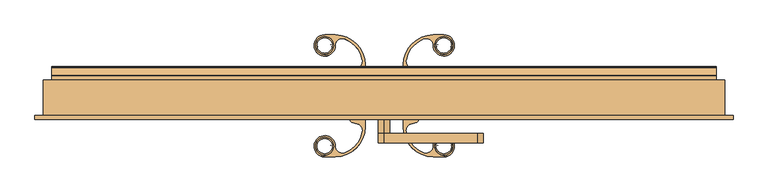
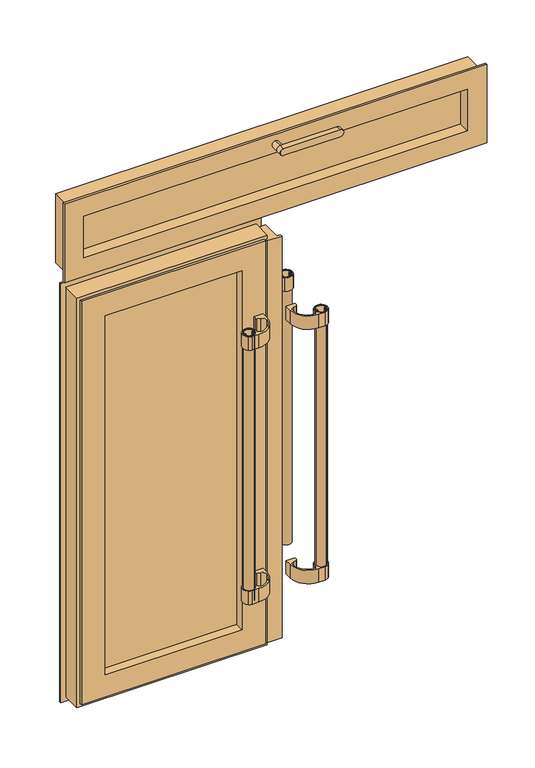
"""IFC4 building model written with IfcOpenShell, lengths in millimetres: door geometry, Dvokrilna vrata s ventusom_ : Dvokrilna vrata s ventusom_."""

from ifc_helpers import new_model, si_unit, point, frame, frame_2d, origin, place, context, project, spatial, polyline, circle_curve, trimmed, segment, composite_curve, outline, extrude, faceted_brep, source, transform, mapped, element, save
from ifc_brep_helpers import plane_surface, cylinder_surface, revolved_surface, advanced_brep


def door_0c907331(model_context):
    return source(origin(), model_context, "Body", "SolidModel", [
        advanced_brep(
        [(0.0, -83.0012446, 1897.9939147), (200.0, -83.0012446, 1897.9939147), (200.0, -83.0012446, 1922.9939147), (0.0, -83.0012446, 1922.9939147), (0.0, -63.0012446, 1922.9939147), (200.0, -63.0012446, 1922.9939147), (200.0, -63.0012446, 1897.9939147), (0.0, -63.0012446, 1897.9939147), (0.0, -33.0012446, 1897.9939147), (0.0, -33.0012446, 1922.9939147)],
        [
            (0, 1),
            (1, 2, circle_curve(frame((200.0, -83.0012446, 1910.4939147), z_axis=(0.0, -1.0, 0.0), x_axis=(0.0, 0.0, 1.0)), 12.5)),
            (2, 3),
            (3, 0, circle_curve(frame((0.0, -83.0012446, 1910.4939147), z_axis=(0.0, -1.0, 0.0), x_axis=(0.0, 0.0, 1.0)), 12.5)),
            (4, 5),
            (5, 6, circle_curve(frame((200.0, -63.0012446, 1910.4939147), z_axis=(0.0, 1.0, 0.0), x_axis=(0.0, 0.0, 1.0)), 12.5)),
            (6, 7),
            (7, 4, circle_curve(frame((0.0, -63.0012446, 1910.4939147), z_axis=(0.0, -1.0, 0.0), x_axis=(0.0, 0.0, 1.0)), 12.5)),
            (0, 7),
            (6, 1),
            (5, 2),
            (4, 3),
            (4, 7, circle_curve(frame((0.0, -63.0012446, 1910.4939147), z_axis=(0.0, -1.0, 0.0), x_axis=(0.0, 0.0, 1.0)), 12.5)),
            (8, 9, circle_curve(frame((0.0, -33.0012446, 1910.4939147), z_axis=(0.0, 1.0, 0.0), x_axis=(0.0, 0.0, 1.0)), 12.5)),
            (9, 8, circle_curve(frame((0.0, -33.0012446, 1910.4939147), z_axis=(0.0, 1.0, 0.0), x_axis=(0.0, 0.0, 1.0)), 12.5)),
            (9, 4),
            (7, 8),
        ],
        [
            plane_surface(frame((0.0, -83.0012446, 1897.9939147), z_axis=(0.0, -1.0, 0.0), x_axis=(1.0, 0.0, 0.0))),
            plane_surface(frame((0.0, -63.0012446, 1897.9939147), z_axis=(0.0, 1.0, 0.0), x_axis=(-1.0, 0.0, 0.0))),
            plane_surface(frame((0.0, -83.0012446, 1897.9939147), z_axis=(0.0, 0.0, -1.0), x_axis=(0.0, 1.0, 0.0))),
            cylinder_surface(frame((200.0, -63.0012446, 1910.4939147), z_axis=(0.0, -1.0, 0.0), x_axis=(0.0, 0.0, 1.0)), 12.5),
            plane_surface(frame((200.0, -83.0012446, 1922.9939147), z_axis=(0.0, 0.0, 1.0), x_axis=(0.0, 1.0, 0.0))),
            cylinder_surface(frame((0.0, -63.0012446, 1910.4939147), z_axis=(0.0, -1.0, 0.0), x_axis=(0.0, 0.0, 1.0)), 12.5),
            plane_surface(frame((0.0, -33.0012446, 1922.9939147), z_axis=(0.0, 1.0, 0.0), x_axis=(1.0, 0.0, 0.0))),
            cylinder_surface(frame((0.0, -33.0012446, 1910.4939147), z_axis=(0.0, -1.0, 0.0), x_axis=(0.0, 0.0, 1.0)), 12.5),
        ],
        [
            (0, [[1, 2, 3, 4]]),
            (1, [[5, 6, 7, 8]]),
            (2, [[-1, 9, -7, 10]]),
            (3, [[-2, -10, -6, 11]]),
            (4, [[-3, -11, -5, 12]]),
            (5, [[-4, -12, 13, -9]]),
            (6, [[14, 15]]),
            (7, [[-15, 16, -8, 17]]),
            (7, [[-14, -17, -13, -16]]),
        ],
    ),
        advanced_brep(
        [(728.9999515, 51.5023127, 1928.9999515), (728.9999515, -25.0011367, 1928.9999515), (728.9999515, -25.0011367, 1671.5000485), (728.9999515, 51.5023127, 1671.5000485), (746.499939, -25.0011367, 1946.499939), (746.499939, -25.0011367, 1654.000061), (-746.499939, -25.0011367, 1654.000061), (-746.499939, -25.0011367, 1946.499939), (-728.9999515, -25.0011367, 1928.9999515), (-728.9999515, -25.0011367, 1671.5000485), (-728.9999515, 51.5023127, 1671.5000485), (-728.9999515, 51.5023127, 1928.9999515), (710.4939147, 51.5023127, 1690.0060853), (710.4939147, 51.5023127, 1910.4939147), (-710.4939147, 51.5023127, 1910.4939147), (-710.4939147, 51.5023127, 1690.0060853), (710.4939147, 60.0023127, 1910.4939147), (710.4939147, 60.0023127, 1690.0060853), (710.4939147, 61.4127073, 1690.0111266), (710.4939147, 61.4023067, 1692.9208963), (710.4939147, 65.4023191, 1699.8492482), (710.4939147, 77.402313, 1692.9209945), (710.4939147, 78.5492699, 1690.0060853), (710.4939147, 79.9799747, 1690.0060853), (710.4939147, 78.0022827, 1694.1911593), (710.4939147, 61.0023437, 1704.0061013), (710.4939147, 60.0023127, 1704.0061013), (-710.4939147, 60.0023127, 1690.0060853), (-710.4939147, 61.4127073, 1690.0111266), (-710.4939147, 61.4023067, 1692.9208963), (-710.4939147, 65.4023191, 1699.8492482), (-710.4939147, 77.402313, 1692.9209945), (-710.4939147, 78.5492699, 1690.0060853), (-710.4939147, 79.9799747, 1690.0060853), (-710.4939147, 78.0022827, 1694.1911593), (-710.4939147, 61.0023437, 1704.0061013), (-710.4939147, 60.0023127, 1704.0061013), (-710.4939147, 60.0023127, 1910.4939147), (678.0736554, 60.0023127, 1722.4263446), (678.0736554, 60.0023127, 1878.0736554), (-678.0736554, 60.0023127, 1878.0736554), (-678.0736554, 60.0023127, 1722.4263446), (678.0736554, 52.505602, 1878.0736554), (678.0736554, 52.505602, 1722.4263446), (-678.0736554, 52.505602, 1722.4263446), (690.0778178, 52.505602, 1710.4221822), (690.0778178, 52.505602, 1890.0778178), (-690.0778178, 52.505602, 1890.0778178), (-690.0778178, 52.505602, 1710.4221822), (-678.0736554, 52.505602, 1878.0736554), (690.0778178, 8.505602, 1890.0778178), (690.0778178, 8.505602, 1710.4221822), (-690.0778178, 8.505602, 1710.4221822), (-690.0778178, 8.505602, 1890.0778178), (677.9998235, 8.505602, 1722.5001765), (677.9998235, 8.505602, 1877.9998235), (-677.9998235, 8.505602, 1877.9998235), (-677.9998235, 8.505602, 1722.5001765), (677.9998235, -33.0012446, 1877.9998235), (677.9998235, -33.0012446, 1722.5001765), (-677.9998235, -33.0012446, 1722.5001765), (746.499939, -33.0012446, 1654.000061), (746.499939, -33.0012446, 1946.499939), (-746.499939, -33.0012446, 1946.499939), (-746.499939, -33.0012446, 1654.000061), (-677.9998235, -33.0012446, 1877.9998235)],
        [
            (0, 1),
            (1, 2),
            (2, 3),
            (3, 0),
            (4, 5),
            (5, 6),
            (6, 7),
            (7, 4),
            (1, 8),
            (8, 9),
            (9, 2),
            (9, 10),
            (10, 3),
            (10, 11),
            (11, 0),
            (12, 13),
            (13, 14),
            (14, 15),
            (15, 12),
            (16, 13),
            (12, 17),
            (17, 18),
            (18, 19),
            (19, 20),
            (20, 21),
            (21, 22, circle_curve(frame((710.4939147, 75.4152773, 1690.4560302), z_axis=(-1.0, 0.0, 0.0), x_axis=(0.0, 0.6275919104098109, 0.7785424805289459)), 3.1661269)),
            (22, 23),
            (23, 24, circle_curve(frame((710.4939147, 75.7102315, 1690.5482067), z_axis=(1.0, 0.0, 0.0), x_axis=(0.0, 0.9920357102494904, -0.12595693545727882)), 4.3040217)),
            (24, 25),
            (25, 26),
            (26, 16),
            (15, 27),
            (27, 17),
            (27, 28),
            (28, 18),
            (28, 29),
            (29, 19),
            (29, 30),
            (30, 20),
            (30, 31),
            (31, 21),
            (31, 32, circle_curve(frame((-710.4939147, 75.4152773, 1690.4560302), z_axis=(-1.0, 0.0, 0.0), x_axis=(0.0, 0.6275919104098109, 0.7785424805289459)), 3.1661269)),
            (32, 22),
            (32, 33),
            (33, 23),
            (33, 34, circle_curve(frame((-710.4939147, 75.7102315, 1690.5482067), z_axis=(1.0, 0.0, 0.0), x_axis=(0.0, 0.9920357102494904, -0.12595693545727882)), 4.3040217)),
            (34, 24),
            (34, 35),
            (35, 25),
            (35, 36),
            (36, 26),
            (37, 16),
            (36, 37),
            (38, 39),
            (39, 40),
            (40, 41),
            (41, 38),
            (42, 39),
            (38, 43),
            (43, 42),
            (41, 44),
            (44, 43),
            (45, 46),
            (46, 47),
            (47, 48),
            (48, 45),
            (44, 49),
            (49, 42),
            (50, 46),
            (45, 51),
            (51, 50),
            (48, 52),
            (52, 51),
            (52, 53),
            (53, 50),
            (54, 55),
            (55, 56),
            (56, 57),
            (57, 54),
            (58, 55),
            (54, 59),
            (59, 58),
            (57, 60),
            (60, 59),
            (61, 62),
            (62, 63),
            (63, 64),
            (64, 61),
            (60, 65),
            (65, 58),
            (61, 5),
            (4, 62),
            (64, 6),
            (8, 11),
            (14, 37),
            (40, 49),
            (47, 53),
            (56, 65),
            (63, 7),
        ],
        [
            plane_surface(frame((728.9999515, -25.0011367, 1928.9999515), z_axis=(1.0, 0.0, 0.0), x_axis=(0.0, 0.0, -1.0))),
            plane_surface(frame((-746.499939, -25.0011367, 1946.499939), z_axis=(0.0, 1.0, 0.0), x_axis=(1.0, 0.0, 0.0))),
            plane_surface(frame((728.9999515, -25.0011367, 1671.5000485), z_axis=(0.0, 0.0, -1.0), x_axis=(-1.0, 0.0, 0.0))),
            plane_surface(frame((-728.9999515, 51.5023127, 1928.9999515), z_axis=(0.0, 1.0, 0.0), x_axis=(1.0, 0.0, 0.0))),
            plane_surface(frame((710.4939147, 51.5023127, 1910.4939147), z_axis=(1.0, 0.0, 0.0), x_axis=(0.0, 0.0, -1.0))),
            plane_surface(frame((710.4939147, 51.5023127, 1690.0060853), z_axis=(0.0, 0.0, -1.0), x_axis=(-1.0, 0.0, 0.0))),
            plane_surface(frame((-710.4939147, 61.4127073, 1690.0111266), z_axis=(0.0, 0.003574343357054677, -0.9999936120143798), x_axis=(1.0, 0.0, 0.0))),
            plane_surface(frame((-710.4939147, 61.4023067, 1692.9208963), z_axis=(0.0, 0.9999936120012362, 0.0035743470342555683), x_axis=(1.0, 0.0, 0.0))),
            plane_surface(frame((-710.4939147, 65.4023191, 1699.8492482), z_axis=(0.0, 0.8660293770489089, -0.49999311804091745), x_axis=(1.0, 0.0, 0.0))),
            plane_surface(frame((-710.4939147, 77.402313, 1692.9209945), z_axis=(0.0, -0.5000029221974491, -0.8660237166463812), x_axis=(1.0, 0.0, 0.0))),
            revolved_surface(polyline([(710.4939147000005, 77.40231292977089, 1692.9209944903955), (-710.4939147, 77.40231292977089, 1692.9209944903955)]), (-710.4939147, 75.4152773, 1690.4560302), (1.0000000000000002, 0.0, 0.0)),
            plane_surface(frame((-710.4939147, 79.9799747, 1690.0060853), z_axis=(0.0, 0.0, -1.0), x_axis=(1.0, 0.0, 0.0))),
            cylinder_surface(frame((-710.4939147, 75.7102315, 1690.5482067), z_axis=(-1.0, 0.0, 0.0), x_axis=(0.0, 0.9920357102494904, -0.12595693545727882)), 4.3040217),
            plane_surface(frame((-710.4939147, 61.0023437, 1704.0061013), z_axis=(0.0, 0.5000008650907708, 0.8660249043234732), x_axis=(1.0, 0.0, 0.0))),
            plane_surface(frame((-710.4939147, 60.0023127, 1704.0061013), z_axis=(0.0, 0.0, 1.0), x_axis=(1.0, 0.0, 0.0))),
            plane_surface(frame((-710.4939147, 60.0023127, 1910.4939147), z_axis=(0.0, 1.0, 0.0), x_axis=(1.0, 0.0, 0.0))),
            plane_surface(frame((678.0736554, 60.0023127, 1878.0736554), z_axis=(-1.0, 0.0, 0.0), x_axis=(0.0, 0.0, -1.0))),
            plane_surface(frame((678.0736554, 60.0023127, 1722.4263446), z_axis=(0.0, 0.0, 1.0), x_axis=(-1.0, 0.0, 0.0))),
            plane_surface(frame((-678.0736554, 52.505602, 1878.0736554), z_axis=(0.0, -1.0, 0.0), x_axis=(1.0, 0.0, 0.0))),
            plane_surface(frame((690.0778178, 52.505602, 1890.0778178), z_axis=(-1.0, 0.0, 0.0), x_axis=(0.0, 0.0, -1.0))),
            plane_surface(frame((690.0778178, 52.505602, 1710.4221822), z_axis=(0.0, 0.0, 1.0), x_axis=(-1.0, 0.0, 0.0))),
            plane_surface(frame((-690.0778178, 8.505602, 1890.0778178), z_axis=(0.0, 1.0, 0.0), x_axis=(1.0, 0.0, 0.0))),
            plane_surface(frame((677.9998235, 8.505602, 1877.9998235), z_axis=(-1.0, 0.0, 0.0), x_axis=(0.0, 0.0, -1.0))),
            plane_surface(frame((677.9998235, 8.505602, 1722.5001765), z_axis=(0.0, 0.0, 1.0), x_axis=(-1.0, 0.0, 0.0))),
            plane_surface(frame((-677.9998235, -33.0012446, 1877.9998235), z_axis=(0.0, -1.0, 0.0), x_axis=(1.0, 0.0, 0.0))),
            plane_surface(frame((746.499939, -30.2011769, 1946.499939), z_axis=(1.0, 0.0, 0.0), x_axis=(0.0, 0.0, -1.0))),
            plane_surface(frame((746.499939, -30.2011769, 1654.000061), z_axis=(0.0, 0.0, -1.0), x_axis=(-1.0, 0.0, 0.0))),
            plane_surface(frame((-728.9999515, -25.0011367, 1671.5000485), z_axis=(-1.0, 0.0, 0.0), x_axis=(0.0, 0.0, 1.0))),
            plane_surface(frame((-710.4939147, 51.5023127, 1690.0060853), z_axis=(-1.0, 0.0, 0.0), x_axis=(0.0, 0.0, 1.0))),
            plane_surface(frame((-678.0736554, 60.0023127, 1722.4263446), z_axis=(1.0, 0.0, 0.0), x_axis=(0.0, 0.0, 1.0))),
            plane_surface(frame((-690.0778178, 52.505602, 1710.4221822), z_axis=(1.0, 0.0, 0.0), x_axis=(0.0, 0.0, 1.0))),
            plane_surface(frame((-677.9998235, 8.505602, 1722.5001765), z_axis=(1.0, 0.0, 0.0), x_axis=(0.0, 0.0, 1.0))),
            plane_surface(frame((-746.499939, -30.2011769, 1654.000061), z_axis=(-1.0, 0.0, 0.0), x_axis=(0.0, 0.0, 1.0))),
            plane_surface(frame((-728.9999515, -25.0011367, 1928.9999515), z_axis=(0.0, 0.0, 1.0), x_axis=(1.0, 0.0, 0.0))),
            plane_surface(frame((-710.4939147, 51.5023127, 1910.4939147), z_axis=(0.0, 0.0, 1.0), x_axis=(1.0, 0.0, 0.0))),
            plane_surface(frame((-678.0736554, 60.0023127, 1878.0736554), z_axis=(0.0, 0.0, -1.0), x_axis=(1.0, 0.0, 0.0))),
            plane_surface(frame((-690.0778178, 52.505602, 1890.0778178), z_axis=(0.0, 0.0, -1.0), x_axis=(1.0, 0.0, 0.0))),
            plane_surface(frame((-677.9998235, 8.505602, 1877.9998235), z_axis=(0.0, 0.0, -1.0), x_axis=(1.0, 0.0, 0.0))),
            plane_surface(frame((-746.499939, -30.2011769, 1946.499939), z_axis=(0.0, 0.0, 1.0), x_axis=(1.0, 0.0, 0.0))),
        ],
        [
            (0, [[1, 2, 3, 4]]),
            (1, [[5, 6, 7, 8], [-2, 9, 10, 11]]),
            (2, [[-3, -11, 12, 13]]),
            (3, [[-4, -13, 14, 15], [16, 17, 18, 19]]),
            (4, [[20, -16, 21, 22, 23, 24, 25, 26, 27, 28, 29, 30, 31]]),
            (5, [[-21, -19, 32, 33]]),
            (6, [[34, 35, -22, -33]]),
            (7, [[36, 37, -23, -35]]),
            (8, [[38, 39, -24, -37]]),
            (9, [[40, 41, -25, -39]]),
            (10, [[42, 43, -26, -41]]),
            (11, [[44, 45, -27, -43]]),
            (12, [[46, 47, -28, -45]]),
            (13, [[48, 49, -29, -47]]),
            (14, [[50, 51, -30, -49]]),
            (15, [[52, -31, -51, 53], [54, 55, 56, 57]]),
            (16, [[58, -54, 59, 60]]),
            (17, [[-59, -57, 61, 62]]),
            (18, [[63, 64, 65, 66], [-60, -62, 67, 68]]),
            (19, [[69, -63, 70, 71]]),
            (20, [[-70, -66, 72, 73]]),
            (21, [[-71, -73, 74, 75], [76, 77, 78, 79]]),
            (22, [[80, -76, 81, 82]]),
            (23, [[-81, -79, 83, 84]]),
            (24, [[85, 86, 87, 88], [-82, -84, 89, 90]]),
            (25, [[-85, 91, -5, 92]]),
            (26, [[-91, -88, 93, -6]]),
            (27, [[-12, -10, 94, -14]]),
            (28, [[-32, -18, 95, -53, -50, -48, -46, -44, -42, -40, -38, -36, -34]]),
            (29, [[-61, -56, 96, -67]]),
            (30, [[-72, -65, 97, -74]]),
            (31, [[-83, -78, 98, -89]]),
            (32, [[-93, -87, 99, -7]]),
            (33, [[-1, -15, -94, -9]]),
            (34, [[-20, -52, -95, -17]]),
            (35, [[-58, -68, -96, -55]]),
            (36, [[-69, -75, -97, -64]]),
            (37, [[-80, -90, -98, -77]]),
            (38, [[-92, -8, -99, -86]]),
        ],
    ),
        extrude(outline(polyline([(690.0778178, 8.505602), (-690.0778178, 8.505602), (-690.0778178, 51.5023127), (690.0778178, 51.5023127), (690.0778178, 8.505602)])), frame((0.0, 0.0, 1710.4221822), z_axis=(0.0, 0.0, 1.0), x_axis=(1.0, 0.0, 0.0)), (0.0, 0.0, 1.0), 179.6556356),
        extrude(outline(composite_curve([segment(trimmed(circle_curve(frame_2d((-126.8433953, -90.4480127)), 19.0), [point((-107.8433953, -90.4480127))], [point((-145.8433953, -90.4480127))], False, "CARTESIAN"), True, "CONTINUOUS"), segment(trimmed(circle_curve(frame_2d((-126.8433953, -90.4480127)), 19.0), [point((-145.8433953, -90.4480127))], [point((-107.8433953, -90.4480127))], False, "CARTESIAN"), True, "CONTINUOUS")], self_intersect=False), holes=[composite_curve([segment(trimmed(circle_curve(frame_2d((-112.3833953, -90.4480127)), 1.55), [point((-113.4794108, -91.5440282))], [point((-113.4794108, -89.3519971))], True, "CARTESIAN"), True, "CONTINUOUS"), segment(polyline([(-113.4794108, -89.3519971), (-114.626012, -89.3519971), (-114.626012, -88.3808479)]), True, "CONTINUOUS"), segment(trimmed(circle_curve(frame_2d((-112.3833953, -90.4480127)), 3.05), [point((-114.626012, -88.3808479))], [point((-112.3833953, -87.3980127))], False, "CARTESIAN"), True, "CONTINUOUS"), segment(polyline([(-112.3833953, -87.3980127), (-111.1367884, -87.3980127)]), True, "CONTINUOUS"), segment(trimmed(circle_curve(frame_2d((-126.8433953, -90.4480127)), 16.0), [point((-111.1367884, -87.3980127))], [point((-142.5500021, -87.3980127))], True, "CARTESIAN"), True, "CONTINUOUS"), segment(polyline([(-142.5500021, -87.3980127), (-141.3433953, -87.3980127)]), True, "CONTINUOUS"), segment(trimmed(circle_curve(frame_2d((-141.3433953, -90.4480127)), 3.05), [point((-141.3433953, -87.3980127))], [point((-139.1007785, -88.3808479))], False, "CARTESIAN"), True, "CONTINUOUS"), segment(polyline([(-139.1007785, -88.3808479), (-139.1007785, -89.3519971), (-140.2473797, -89.3519971)]), True, "CONTINUOUS"), segment(trimmed(circle_curve(frame_2d((-141.3433953, -90.4480127)), 1.55), [point((-140.2473797, -89.3519971))], [point((-140.2473797, -91.5440282))], True, "CARTESIAN"), True, "CONTINUOUS"), segment(polyline([(-140.2473797, -91.5440282), (-139.1007785, -91.5440282), (-139.1007785, -92.5151774)]), True, "CONTINUOUS"), segment(trimmed(circle_curve(frame_2d((-141.3433953, -90.4480127)), 3.05), [point((-139.1007785, -92.5151774))], [point((-141.3433953, -93.4980127))], False, "CARTESIAN"), True, "CONTINUOUS"), segment(polyline([(-141.3433953, -93.4980127), (-142.5500021, -93.4980127)]), True, "CONTINUOUS"), segment(trimmed(circle_curve(frame_2d((-126.8433953, -90.4480127)), 16.0), [point((-142.5500021, -93.4980127))], [point((-111.1367884, -93.4980127))], True, "CARTESIAN"), True, "CONTINUOUS"), segment(polyline([(-111.1367884, -93.4980127), (-112.3833953, -93.4980127)]), True, "CONTINUOUS"), segment(trimmed(circle_curve(frame_2d((-112.3833953, -90.4480127)), 3.05), [point((-112.3833953, -93.4980127))], [point((-114.626012, -92.5151774))], False, "CARTESIAN"), True, "CONTINUOUS"), segment(polyline([(-114.626012, -92.5151774), (-114.626012, -91.5440282), (-113.4794108, -91.5440282)]), True, "CONTINUOUS")], self_intersect=False)]), frame((0.0, 0.0, 285.3), z_axis=(0.0, 0.0, 1.0), x_axis=(1.0, 0.0, 0.0)), (0.0, 0.0, 1.0), 1000.0),
        extrude(outline(composite_curve([segment(polyline([(-45.2965181, -25.0002504), (-40.2965181, -25.0002504), (-40.2965181, -49.1980127)]), True, "CONTINUOUS"), segment(trimmed(circle_curve(frame_2d((-104.2937591, -49.1980127)), 63.997241), [point((-40.2965181, -49.1980127))], [point((-104.2937591, -113.1952536))], False, "CARTESIAN"), True, "CONTINUOUS"), segment(polyline([(-104.2937591, -113.1952536), (-127.197696, -113.1952536)]), True, "CONTINUOUS"), segment(trimmed(circle_curve(frame_2d((-126.7792508, -90.255705)), 22.9433648), [point((-127.197696, -113.1952536))], [point((-140.2155097, -108.8531493))], False, "CARTESIAN"), True, "CONTINUOUS"), segment(trimmed(circle_curve(frame_2d((-126.9211325, -90.4520867)), 22.7010919), [point((-140.2155097, -108.8531493))], [point((-142.0661166, -73.5414679))], False, "CARTESIAN"), True, "CONTINUOUS"), segment(trimmed(circle_curve(frame_2d((-126.8383367, -90.5445349)), 22.8251959), [point((-142.0661166, -73.5414679))], [point((-113.4712808, -72.042876))], False, "CARTESIAN"), True, "CONTINUOUS"), segment(trimmed(circle_curve(frame_2d((-126.7250279, -90.3877015)), 22.631713), [point((-113.4712808, -72.042876))], [point((-104.0933953, -90.4480127))], False, "CARTESIAN"), True, "CONTINUOUS"), segment(trimmed(circle_curve(frame_2d((-89.0934036, -90.4879862)), 15.0000449), [point((-104.0933953, -90.4480127))], [point((-83.9255414, -104.5696959))], True, "CARTESIAN"), True, "CONTINUOUS"), segment(trimmed(circle_curve(frame_2d((-104.2241808, -49.2587109)), 58.9180773), [point((-83.9255414, -104.5696959))], [point((-46.2286722, -59.6443165))], True, "CARTESIAN"), True, "CONTINUOUS"), segment(trimmed(circle_curve(frame_2d((-60.9435394, -56.7139289)), 15.0038159), [point((-46.2286722, -59.6443165))], [point((-57.0602662, -42.2213556))], True, "CARTESIAN"), True, "CONTINUOUS"), segment(polyline([(-57.0602662, -42.2213556), (-68.5906134, -39.1318084)]), True, "CONTINUOUS"), segment(trimmed(circle_curve(frame_2d((-67.2965181, -34.3021793)), 5.0), [point((-68.5906134, -39.1318084))], [point((-72.2965181, -34.3021793))], False, "CARTESIAN"), True, "CONTINUOUS"), segment(polyline([(-72.2965181, -34.3021793), (-72.2965181, -25.0002504), (-45.2965181, -25.0002504)]), True, "CONTINUOUS")], self_intersect=False), holes=[composite_curve([segment(trimmed(circle_curve(frame_2d((-126.8433953, -90.4480127)), 19.25), [point((-107.5933953, -90.4480127))], [point((-146.0933953, -90.4480127))], True, "CARTESIAN"), True, "CONTINUOUS"), segment(trimmed(circle_curve(frame_2d((-126.8433953, -90.4480127)), 19.25), [point((-146.0933953, -90.4480127))], [point((-107.5933953, -90.4480127))], True, "CARTESIAN"), True, "CONTINUOUS")], self_intersect=False)]), frame((0.0, 0.0, 1235.3), z_axis=(0.0, 0.0, 1.0), x_axis=(1.0, 0.0, 0.0)), (0.0, 0.0, 1.0), 50.0),
        extrude(outline(composite_curve([segment(polyline([(-45.2965181, -25.0002504), (-40.2965181, -25.0002504), (-40.2965181, -49.1980127)]), True, "CONTINUOUS"), segment(trimmed(circle_curve(frame_2d((-104.2937591, -49.1980127)), 63.997241), [point((-40.2965181, -49.1980127))], [point((-104.2937591, -113.1952536))], False, "CARTESIAN"), True, "CONTINUOUS"), segment(polyline([(-104.2937591, -113.1952536), (-127.197696, -113.1952536)]), True, "CONTINUOUS"), segment(trimmed(circle_curve(frame_2d((-126.7792508, -90.255705)), 22.9433648), [point((-127.197696, -113.1952536))], [point((-140.2155097, -108.8531493))], False, "CARTESIAN"), True, "CONTINUOUS"), segment(trimmed(circle_curve(frame_2d((-126.9211325, -90.4520867)), 22.7010919), [point((-140.2155097, -108.8531493))], [point((-142.0661166, -73.5414679))], False, "CARTESIAN"), True, "CONTINUOUS"), segment(trimmed(circle_curve(frame_2d((-126.8383367, -90.5445349)), 22.8251959), [point((-142.0661166, -73.5414679))], [point((-113.4712808, -72.042876))], False, "CARTESIAN"), True, "CONTINUOUS"), segment(trimmed(circle_curve(frame_2d((-126.7250279, -90.3877015)), 22.631713), [point((-113.4712808, -72.042876))], [point((-104.0933953, -90.4480127))], False, "CARTESIAN"), True, "CONTINUOUS"), segment(trimmed(circle_curve(frame_2d((-89.0934036, -90.4879862)), 15.0000449), [point((-104.0933953, -90.4480127))], [point((-83.9255414, -104.5696959))], True, "CARTESIAN"), True, "CONTINUOUS"), segment(trimmed(circle_curve(frame_2d((-104.2241808, -49.2587109)), 58.9180773), [point((-83.9255414, -104.5696959))], [point((-46.2286722, -59.6443165))], True, "CARTESIAN"), True, "CONTINUOUS"), segment(trimmed(circle_curve(frame_2d((-60.9435394, -56.7139289)), 15.0038159), [point((-46.2286722, -59.6443165))], [point((-57.0602662, -42.2213556))], True, "CARTESIAN"), True, "CONTINUOUS"), segment(polyline([(-57.0602662, -42.2213556), (-68.5906134, -39.1318084)]), True, "CONTINUOUS"), segment(trimmed(circle_curve(frame_2d((-67.2965181, -34.3021793)), 5.0), [point((-68.5906134, -39.1318084))], [point((-72.2965181, -34.3021793))], False, "CARTESIAN"), True, "CONTINUOUS"), segment(polyline([(-72.2965181, -34.3021793), (-72.2965181, -25.0002504), (-45.2965181, -25.0002504)]), True, "CONTINUOUS")], self_intersect=False), holes=[composite_curve([segment(trimmed(circle_curve(frame_2d((-126.8433953, -90.4480127)), 19.25), [point((-107.5933953, -90.4480127))], [point((-146.0933953, -90.4480127))], True, "CARTESIAN"), True, "CONTINUOUS"), segment(trimmed(circle_curve(frame_2d((-126.8433953, -90.4480127)), 19.25), [point((-146.0933953, -90.4480127))], [point((-107.5933953, -90.4480127))], True, "CARTESIAN"), True, "CONTINUOUS")], self_intersect=False)]), frame((0.0, 0.0, 285.3), z_axis=(0.0, 0.0, 1.0), x_axis=(1.0, 0.0, 0.0)), (0.0, 0.0, 1.0), 50.0),
        extrude(outline(composite_curve([segment(trimmed(circle_curve(frame_2d((-126.8433953, 125.4500749)), 19.0), [point((-107.8433953, 125.4500749))], [point((-145.8433953, 125.4500749))], False, "CARTESIAN"), True, "CONTINUOUS"), segment(trimmed(circle_curve(frame_2d((-126.8433953, 125.4500749)), 19.0), [point((-145.8433953, 125.4500749))], [point((-107.8433953, 125.4500749))], False, "CARTESIAN"), True, "CONTINUOUS")], self_intersect=False), holes=[composite_curve([segment(polyline([(-113.4794108, 126.5460904), (-114.626012, 126.5460904), (-114.626012, 127.5172397)]), True, "CONTINUOUS"), segment(trimmed(circle_curve(frame_2d((-112.3833953, 125.4500749)), 3.05), [point((-114.626012, 127.5172397))], [point((-112.3833953, 128.5000749))], False, "CARTESIAN"), True, "CONTINUOUS"), segment(polyline([(-112.3833953, 128.5000749), (-111.1367884, 128.5000749)]), True, "CONTINUOUS"), segment(trimmed(circle_curve(frame_2d((-126.8433953, 125.4500749)), 16.0), [point((-111.1367884, 128.5000749))], [point((-142.5500021, 128.5000749))], True, "CARTESIAN"), True, "CONTINUOUS"), segment(polyline([(-142.5500021, 128.5000749), (-141.3433953, 128.5000749)]), True, "CONTINUOUS"), segment(trimmed(circle_curve(frame_2d((-141.3433953, 125.4500749)), 3.05), [point((-141.3433953, 128.5000749))], [point((-139.1007785, 127.5172397))], False, "CARTESIAN"), True, "CONTINUOUS"), segment(polyline([(-139.1007785, 127.5172397), (-139.1007785, 126.5460904), (-140.2473797, 126.5460904)]), True, "CONTINUOUS"), segment(trimmed(circle_curve(frame_2d((-141.3433953, 125.4500749)), 1.55), [point((-140.2473797, 126.5460904))], [point((-140.2473797, 124.3540594))], True, "CARTESIAN"), True, "CONTINUOUS"), segment(polyline([(-140.2473797, 124.3540594), (-139.1007785, 124.3540594), (-139.1007785, 123.3829102)]), True, "CONTINUOUS"), segment(trimmed(circle_curve(frame_2d((-141.3433953, 125.4500749)), 3.05), [point((-139.1007785, 123.3829102))], [point((-141.3433953, 122.4000749))], False, "CARTESIAN"), True, "CONTINUOUS"), segment(polyline([(-141.3433953, 122.4000749), (-142.5500021, 122.4000749)]), True, "CONTINUOUS"), segment(trimmed(circle_curve(frame_2d((-126.8433953, 125.4500749)), 16.0), [point((-142.5500021, 122.4000749))], [point((-111.1367884, 122.4000749))], True, "CARTESIAN"), True, "CONTINUOUS"), segment(polyline([(-111.1367884, 122.4000749), (-112.3833953, 122.4000749)]), True, "CONTINUOUS"), segment(trimmed(circle_curve(frame_2d((-112.3833953, 125.4500749)), 3.05), [point((-112.3833953, 122.4000749))], [point((-114.626012, 123.3829102))], False, "CARTESIAN"), True, "CONTINUOUS"), segment(polyline([(-114.626012, 123.3829102), (-114.626012, 124.3540594), (-113.4794108, 124.3540594)]), True, "CONTINUOUS"), segment(trimmed(circle_curve(frame_2d((-112.3833953, 125.4500749)), 1.55), [point((-113.4794108, 124.3540594))], [point((-113.4794108, 126.5460904))], True, "CARTESIAN"), True, "CONTINUOUS")], self_intersect=False)]), frame((0.0, 0.0, 285.3), z_axis=(0.0, 0.0, 1.0), x_axis=(1.0, 0.0, 0.0)), (0.0, 0.0, 1.0), 1000.0),
        extrude(outline(composite_curve([segment(polyline([(-45.2965181, 60.0023127), (-72.2965181, 60.0023127), (-72.2965181, 69.3042415)]), True, "CONTINUOUS"), segment(trimmed(circle_curve(frame_2d((-67.2965181, 69.3042415)), 5.0), [point((-72.2965181, 69.3042415))], [point((-68.5906134, 74.1338707))], False, "CARTESIAN"), True, "CONTINUOUS"), segment(polyline([(-68.5906134, 74.1338707), (-57.0602662, 77.2234179)]), True, "CONTINUOUS"), segment(trimmed(circle_curve(frame_2d((-60.9435394, 91.7159911)), 15.0038159), [point((-57.0602662, 77.2234179))], [point((-46.2286722, 94.6463788))], True, "CARTESIAN"), True, "CONTINUOUS"), segment(trimmed(circle_curve(frame_2d((-104.2241808, 84.2607731)), 58.9180773), [point((-46.2286722, 94.6463788))], [point((-83.9255414, 139.5717582))], True, "CARTESIAN"), True, "CONTINUOUS"), segment(trimmed(circle_curve(frame_2d((-89.0934036, 125.4900485)), 15.0000449), [point((-83.9255414, 139.5717582))], [point((-104.0933953, 125.4500749))], True, "CARTESIAN"), True, "CONTINUOUS"), segment(trimmed(circle_curve(frame_2d((-126.7250279, 125.3897637)), 22.631713), [point((-104.0933953, 125.4500749))], [point((-113.4712808, 107.0449383))], False, "CARTESIAN"), True, "CONTINUOUS"), segment(trimmed(circle_curve(frame_2d((-126.8383367, 125.5465972)), 22.8251959), [point((-113.4712808, 107.0449383))], [point((-142.0661166, 108.5435301))], False, "CARTESIAN"), True, "CONTINUOUS"), segment(trimmed(circle_curve(frame_2d((-126.9211325, 125.4541489)), 22.7010919), [point((-142.0661166, 108.5435301))], [point((-140.2155097, 143.8552115))], False, "CARTESIAN"), True, "CONTINUOUS"), segment(trimmed(circle_curve(frame_2d((-126.7792508, 125.2577672)), 22.9433648), [point((-140.2155097, 143.8552115))], [point((-127.197696, 148.1973159))], False, "CARTESIAN"), True, "CONTINUOUS"), segment(polyline([(-127.197696, 148.1973159), (-104.2937591, 148.1973159)]), True, "CONTINUOUS"), segment(trimmed(circle_curve(frame_2d((-104.2937591, 84.2000749)), 63.997241), [point((-104.2937591, 148.1973159))], [point((-40.2965181, 84.2000749))], False, "CARTESIAN"), True, "CONTINUOUS"), segment(polyline([(-40.2965181, 84.2000749), (-40.2965181, 60.0023127), (-45.2965181, 60.0023127)]), True, "CONTINUOUS")], self_intersect=False), holes=[composite_curve([segment(trimmed(circle_curve(frame_2d((-126.8433953, 125.4500749)), 19.25), [point((-107.5933953, 125.4500749))], [point((-146.0933953, 125.4500749))], True, "CARTESIAN"), True, "CONTINUOUS"), segment(trimmed(circle_curve(frame_2d((-126.8433953, 125.4500749)), 19.25), [point((-146.0933953, 125.4500749))], [point((-107.5933953, 125.4500749))], True, "CARTESIAN"), True, "CONTINUOUS")], self_intersect=False)]), frame((0.0, 0.0, 1235.3), z_axis=(0.0, 0.0, 1.0), x_axis=(1.0, 0.0, 0.0)), (0.0, 0.0, 1.0), 50.0),
        extrude(outline(composite_curve([segment(polyline([(-45.2965181, 60.0023127), (-72.2965181, 60.0023127), (-72.2965181, 69.3042415)]), True, "CONTINUOUS"), segment(trimmed(circle_curve(frame_2d((-67.2965181, 69.3042415)), 5.0), [point((-72.2965181, 69.3042415))], [point((-68.5906134, 74.1338707))], False, "CARTESIAN"), True, "CONTINUOUS"), segment(polyline([(-68.5906134, 74.1338707), (-57.0602662, 77.2234179)]), True, "CONTINUOUS"), segment(trimmed(circle_curve(frame_2d((-60.9435394, 91.7159911)), 15.0038159), [point((-57.0602662, 77.2234179))], [point((-46.2286722, 94.6463788))], True, "CARTESIAN"), True, "CONTINUOUS"), segment(trimmed(circle_curve(frame_2d((-104.2241808, 84.2607731)), 58.9180773), [point((-46.2286722, 94.6463788))], [point((-83.9255414, 139.5717582))], True, "CARTESIAN"), True, "CONTINUOUS"), segment(trimmed(circle_curve(frame_2d((-89.0934036, 125.4900485)), 15.0000449), [point((-83.9255414, 139.5717582))], [point((-104.0933953, 125.4500749))], True, "CARTESIAN"), True, "CONTINUOUS"), segment(trimmed(circle_curve(frame_2d((-126.7250279, 125.3897637)), 22.631713), [point((-104.0933953, 125.4500749))], [point((-113.4712808, 107.0449383))], False, "CARTESIAN"), True, "CONTINUOUS"), segment(trimmed(circle_curve(frame_2d((-126.8383367, 125.5465972)), 22.8251959), [point((-113.4712808, 107.0449383))], [point((-142.0661166, 108.5435301))], False, "CARTESIAN"), True, "CONTINUOUS"), segment(trimmed(circle_curve(frame_2d((-126.9211325, 125.4541489)), 22.7010919), [point((-142.0661166, 108.5435301))], [point((-140.2155097, 143.8552115))], False, "CARTESIAN"), True, "CONTINUOUS"), segment(trimmed(circle_curve(frame_2d((-126.7792508, 125.2577672)), 22.9433648), [point((-140.2155097, 143.8552115))], [point((-127.197696, 148.1973159))], False, "CARTESIAN"), True, "CONTINUOUS"), segment(polyline([(-127.197696, 148.1973159), (-104.2937591, 148.1973159)]), True, "CONTINUOUS"), segment(trimmed(circle_curve(frame_2d((-104.2937591, 84.2000749)), 63.997241), [point((-104.2937591, 148.1973159))], [point((-40.2965181, 84.2000749))], False, "CARTESIAN"), True, "CONTINUOUS"), segment(polyline([(-40.2965181, 84.2000749), (-40.2965181, 60.0023127), (-45.2965181, 60.0023127)]), True, "CONTINUOUS")], self_intersect=False), holes=[composite_curve([segment(trimmed(circle_curve(frame_2d((-126.8433953, 125.4500749)), 19.25), [point((-107.5933953, 125.4500749))], [point((-146.0933953, 125.4500749))], True, "CARTESIAN"), True, "CONTINUOUS"), segment(trimmed(circle_curve(frame_2d((-126.8433953, 125.4500749)), 19.25), [point((-146.0933953, 125.4500749))], [point((-107.5933953, 125.4500749))], True, "CARTESIAN"), True, "CONTINUOUS")], self_intersect=False)]), frame((0.0, 0.0, 285.3), z_axis=(0.0, 0.0, 1.0), x_axis=(1.0, 0.0, 0.0)), (0.0, 0.0, 1.0), 50.0),
        faceted_brep([(-114.4922423, 60.0023127, 1473.0077577), (-114.4922423, 60.0023127, 131.9922423), (-114.4922423, 50.5064883, 131.9922423), (-114.4922423, 50.5064883, 1473.0077577), (-2.4965181, 60.0023127, 1585.0034819), (-2.4965181, 60.0023127, 19.9965181), (-710.5034819, 60.0023127, 19.9965181), (-710.5034819, 60.0023127, 1585.0034819), (-598.5077577, 60.0023127, 1473.0077577), (-598.5077577, 60.0023127, 131.9922423), (-598.5077577, 50.5064883, 131.9922423), (-99.4896574, 50.5064883, 116.9896574), (-99.4896574, 50.5064883, 1488.0103426), (-613.5103426, 50.5064883, 1488.0103426), (-613.5103426, 50.5064883, 116.9896574), (-598.5077577, 50.5064883, 1473.0077577), (-99.4896574, 6.5064883, 1488.0103426), (-99.4896574, 6.5064883, 116.9896574), (-613.5103426, 6.5064883, 116.9896574), (-613.5103426, 6.5064883, 1488.0103426), (-114.4920713, 6.5064883, 131.9920713), (-114.4920713, 6.5064883, 1473.0079287), (-598.5079287, 6.5064883, 1473.0079287), (-598.5079287, 6.5064883, 131.9920713), (-114.4920713, -25.0002504, 1473.0079287), (-114.4920713, -25.0002504, 131.9920713), (-598.5079287, -25.0002504, 131.9920713), (-31.4904907, -25.0002504, 48.9904907), (-31.4904907, -25.0002504, 1556.0095093), (-681.5095093, -25.0002504, 1556.0095093), (-681.5095093, -25.0002504, 48.9904907), (-598.5079287, -25.0002504, 1473.0079287), (-31.4904907, -16.5001664, 1556.0095093), (-31.4904907, -16.5001664, 48.9904907), (-681.5095093, -16.5001664, 48.9904907), (-692.906518, -16.5001664, 37.593482), (-20.093482, -16.5001664, 37.593482), (-20.093482, -16.5001664, 52.4965181), (-26.4891157, -16.5001664, 52.4965181), (-26.4891157, -16.5001664, 1552.5034819), (-20.093482, -16.5001664, 1552.5034819), (-20.093482, -16.5001664, 1567.406518), (-692.906518, -16.5001664, 1567.406518), (-681.5095093, -16.5001664, 1556.0095093), (-20.093482, 51.4915497, 37.593482), (-20.093482, 51.4915497, 52.4965181), (-20.093482, 51.4915497, 1567.406518), (-20.093482, 51.4915497, 1552.5034819), (-692.906518, 51.4915497, 37.593482), (-692.906518, 51.4915497, 1567.406518), (-2.4965181, 51.4915497, 1552.5034819), (-2.4965181, 51.4915497, 1585.0034819), (-710.5034819, 51.4915497, 1585.0034819), (-710.5034819, 51.4915497, 19.9965181), (-2.4965181, 51.4915497, 19.9965181), (-2.4965181, 51.4915497, 52.4965181), (-26.4891157, -25.0002504, 52.4965181), (12.9908884, 51.494485, 52.4965181), (12.9908884, -16.4972311, 52.4965181), (26.5108846, -16.4972311, 52.4965181), (26.5108846, -25.0002504, 52.4965181), (-26.4891157, -25.0002504, 1552.5034819), (12.9908884, 51.494485, 1552.5034819), (12.9908884, -16.4972311, 1552.5034819), (26.5108846, -16.4972311, 1552.5034819), (26.5108846, -25.0002504, 1552.5034819)], [[[0, 1, 2, 3]], [[4, 5, 6, 7], [1, 0, 8, 9]], [[2, 1, 9, 10]], [[11, 12, 13, 14], [3, 2, 10, 15]], [[16, 12, 11, 17]], [[17, 11, 14, 18]], [[16, 17, 18, 19], [20, 21, 22, 23]], [[24, 21, 20, 25]], [[25, 20, 23, 26]], [[27, 28, 29, 30], [24, 25, 26, 31]], [[32, 28, 27, 33]], [[33, 27, 30, 34]], [[35, 36, 37, 38, 39, 40, 41, 42], [32, 33, 34, 43]], [[36, 44, 45, 37]], [[46, 41, 40, 47]], [[44, 36, 35, 48]], [[44, 48, 49, 46, 47, 50, 51, 52, 53, 54, 55, 45]], [[4, 51, 50, 55, 54, 5]], [[5, 54, 53, 6]], [[10, 9, 8, 15]], [[18, 14, 13, 19]], [[26, 23, 22, 31]], [[34, 30, 29, 43]], [[48, 35, 42, 49]], [[6, 53, 52, 7]], [[0, 3, 15, 8]], [[12, 16, 19, 13]], [[21, 24, 31, 22]], [[28, 32, 43, 29]], [[41, 46, 49, 42]], [[51, 4, 7, 52]], [[56, 38, 37, 45, 55, 57, 58, 59, 60]], [[61, 39, 38, 56]], [[62, 57, 55, 50]], [[62, 63, 58, 57]], [[63, 64, 59, 58]], [[64, 65, 60, 59]], [[65, 61, 56, 60]], [[61, 65, 64, 63, 62, 50, 47, 40, 39]]]),
        extrude(outline(polyline([(-613.5103426, 50.5064883), (-99.4896574, 50.5064883), (-99.4896574, 6.5064883), (-613.5103426, 6.5064883), (-613.5103426, 50.5064883)])), frame((0.0, 0.0, 85.4896574), z_axis=(0.0, 0.0, 1.0), x_axis=(1.0, 0.0, 0.0)), (0.0, 0.0, 1.0), 1434.0206852),
        extrude(outline(composite_curve([segment(trimmed(circle_curve(frame_2d((127.8365345, -90.4480127)), 19.0), [point((108.8365345, -90.4480127))], [point((146.8365345, -90.4480127))], False, "CARTESIAN"), True, "CONTINUOUS"), segment(trimmed(circle_curve(frame_2d((127.8365345, -90.4480127)), 19.0), [point((146.8365345, -90.4480127))], [point((108.8365345, -90.4480127))], False, "CARTESIAN"), True, "CONTINUOUS")], self_intersect=False), holes=[composite_curve([segment(polyline([(114.47255, -91.5440282), (115.6191513, -91.5440282), (115.6191513, -92.5151774)]), True, "CONTINUOUS"), segment(trimmed(circle_curve(frame_2d((113.3765345, -90.4480127)), 3.05), [point((115.6191513, -92.5151774))], [point((113.3765345, -93.4980127))], False, "CARTESIAN"), True, "CONTINUOUS"), segment(polyline([(113.3765345, -93.4980127), (112.1299276, -93.4980127)]), True, "CONTINUOUS"), segment(trimmed(circle_curve(frame_2d((127.8365345, -90.4480127)), 16.0), [point((112.1299276, -93.4980127))], [point((143.5431414, -93.4980127))], True, "CARTESIAN"), True, "CONTINUOUS"), segment(polyline([(143.5431414, -93.4980127), (142.3365345, -93.4980127)]), True, "CONTINUOUS"), segment(trimmed(circle_curve(frame_2d((142.3365345, -90.4480127)), 3.05), [point((142.3365345, -93.4980127))], [point((140.0939178, -92.5151774))], False, "CARTESIAN"), True, "CONTINUOUS"), segment(polyline([(140.0939178, -92.5151774), (140.0939178, -91.5440282), (141.240519, -91.5440282)]), True, "CONTINUOUS"), segment(trimmed(circle_curve(frame_2d((142.3365345, -90.4480127)), 1.55), [point((141.240519, -91.5440282))], [point((141.240519, -89.3519971))], True, "CARTESIAN"), True, "CONTINUOUS"), segment(polyline([(141.240519, -89.3519971), (140.0939178, -89.3519971), (140.0939178, -88.3808479)]), True, "CONTINUOUS"), segment(trimmed(circle_curve(frame_2d((142.3365345, -90.4480127)), 3.05), [point((140.0939178, -88.3808479))], [point((142.3365345, -87.3980127))], False, "CARTESIAN"), True, "CONTINUOUS"), segment(polyline([(142.3365345, -87.3980127), (143.5431414, -87.3980127)]), True, "CONTINUOUS"), segment(trimmed(circle_curve(frame_2d((127.8365345, -90.4480127)), 16.0), [point((143.5431414, -87.3980127))], [point((112.1299276, -87.3980127))], True, "CARTESIAN"), True, "CONTINUOUS"), segment(polyline([(112.1299276, -87.3980127), (113.3765345, -87.3980127)]), True, "CONTINUOUS"), segment(trimmed(circle_curve(frame_2d((113.3765345, -90.4480127)), 3.05), [point((113.3765345, -87.3980127))], [point((115.6191513, -88.3808479))], False, "CARTESIAN"), True, "CONTINUOUS"), segment(polyline([(115.6191513, -88.3808479), (115.6191513, -89.3519971), (114.47255, -89.3519971)]), True, "CONTINUOUS"), segment(trimmed(circle_curve(frame_2d((113.3765345, -90.4480127)), 1.55), [point((114.47255, -89.3519971))], [point((114.47255, -91.5440282))], True, "CARTESIAN"), True, "CONTINUOUS")], self_intersect=False)]), frame((0.0, 0.0, 285.3), z_axis=(0.0, 0.0, 1.0), x_axis=(1.0, 0.0, 0.0)), (0.0, 0.0, 1.0), 1000.0),
        extrude(outline(composite_curve([segment(polyline([(46.2896574, -25.0002504), (73.2896574, -25.0002504), (73.2896574, -34.3021793)]), True, "CONTINUOUS"), segment(trimmed(circle_curve(frame_2d((68.2896574, -34.3021793)), 5.0), [point((73.2896574, -34.3021793))], [point((69.5837526, -39.1318084))], False, "CARTESIAN"), True, "CONTINUOUS"), segment(polyline([(69.5837526, -39.1318084), (58.0534054, -42.2213556)]), True, "CONTINUOUS"), segment(trimmed(circle_curve(frame_2d((61.9366787, -56.7139289)), 15.0038159), [point((58.0534054, -42.2213556))], [point((47.2218115, -59.6443165))], True, "CARTESIAN"), True, "CONTINUOUS"), segment(trimmed(circle_curve(frame_2d((105.2173201, -49.2587109)), 58.9180773), [point((47.2218115, -59.6443165))], [point((84.9186807, -104.5696959))], True, "CARTESIAN"), True, "CONTINUOUS"), segment(trimmed(circle_curve(frame_2d((90.0865429, -90.4879862)), 15.0000449), [point((84.9186807, -104.5696959))], [point((105.0865345, -90.4480127))], True, "CARTESIAN"), True, "CONTINUOUS"), segment(trimmed(circle_curve(frame_2d((127.7181672, -90.3877015)), 22.631713), [point((105.0865345, -90.4480127))], [point((114.46442, -72.042876))], False, "CARTESIAN"), True, "CONTINUOUS"), segment(trimmed(circle_curve(frame_2d((127.831476, -90.5445349)), 22.8251959), [point((114.46442, -72.042876))], [point((143.0592558, -73.5414679))], False, "CARTESIAN"), True, "CONTINUOUS"), segment(trimmed(circle_curve(frame_2d((127.9142718, -90.4520867)), 22.7010919), [point((143.0592558, -73.5414679))], [point((141.208649, -108.8531493))], False, "CARTESIAN"), True, "CONTINUOUS"), segment(trimmed(circle_curve(frame_2d((127.7723901, -90.255705)), 22.9433648), [point((141.208649, -108.8531493))], [point((128.1908353, -113.1952536))], False, "CARTESIAN"), True, "CONTINUOUS"), segment(polyline([(128.1908353, -113.1952536), (105.2868984, -113.1952536)]), True, "CONTINUOUS"), segment(trimmed(circle_curve(frame_2d((105.2868984, -49.1980127)), 63.997241), [point((105.2868984, -113.1952536))], [point((41.2896574, -49.1980127))], False, "CARTESIAN"), True, "CONTINUOUS"), segment(polyline([(41.2896574, -49.1980127), (41.2896574, -25.0002504), (46.2896574, -25.0002504)]), True, "CONTINUOUS")], self_intersect=False), holes=[composite_curve([segment(trimmed(circle_curve(frame_2d((127.8365345, -90.4480127)), 19.25), [point((108.5865345, -90.4480127))], [point((147.0865345, -90.4480127))], True, "CARTESIAN"), True, "CONTINUOUS"), segment(trimmed(circle_curve(frame_2d((127.8365345, -90.4480127)), 19.25), [point((147.0865345, -90.4480127))], [point((108.5865345, -90.4480127))], True, "CARTESIAN"), True, "CONTINUOUS")], self_intersect=False)]), frame((0.0, 0.0, 1235.3), z_axis=(0.0, 0.0, 1.0), x_axis=(1.0, 0.0, 0.0)), (0.0, 0.0, 1.0), 50.0),
        extrude(outline(composite_curve([segment(polyline([(46.2896574, -25.0002504), (73.2896574, -25.0002504), (73.2896574, -34.3021793)]), True, "CONTINUOUS"), segment(trimmed(circle_curve(frame_2d((68.2896574, -34.3021793)), 5.0), [point((73.2896574, -34.3021793))], [point((69.5837526, -39.1318084))], False, "CARTESIAN"), True, "CONTINUOUS"), segment(polyline([(69.5837526, -39.1318084), (58.0534054, -42.2213556)]), True, "CONTINUOUS"), segment(trimmed(circle_curve(frame_2d((61.9366787, -56.7139289)), 15.0038159), [point((58.0534054, -42.2213556))], [point((47.2218115, -59.6443165))], True, "CARTESIAN"), True, "CONTINUOUS"), segment(trimmed(circle_curve(frame_2d((105.2173201, -49.2587109)), 58.9180773), [point((47.2218115, -59.6443165))], [point((84.9186807, -104.5696959))], True, "CARTESIAN"), True, "CONTINUOUS"), segment(trimmed(circle_curve(frame_2d((90.0865429, -90.4879862)), 15.0000449), [point((84.9186807, -104.5696959))], [point((105.0865345, -90.4480127))], True, "CARTESIAN"), True, "CONTINUOUS"), segment(trimmed(circle_curve(frame_2d((127.7181672, -90.3877015)), 22.631713), [point((105.0865345, -90.4480127))], [point((114.46442, -72.042876))], False, "CARTESIAN"), True, "CONTINUOUS"), segment(trimmed(circle_curve(frame_2d((127.831476, -90.5445349)), 22.8251959), [point((114.46442, -72.042876))], [point((143.0592558, -73.5414679))], False, "CARTESIAN"), True, "CONTINUOUS"), segment(trimmed(circle_curve(frame_2d((127.9142718, -90.4520867)), 22.7010919), [point((143.0592558, -73.5414679))], [point((141.208649, -108.8531493))], False, "CARTESIAN"), True, "CONTINUOUS"), segment(trimmed(circle_curve(frame_2d((127.7723901, -90.255705)), 22.9433648), [point((141.208649, -108.8531493))], [point((128.1908353, -113.1952536))], False, "CARTESIAN"), True, "CONTINUOUS"), segment(polyline([(128.1908353, -113.1952536), (105.2868984, -113.1952536)]), True, "CONTINUOUS"), segment(trimmed(circle_curve(frame_2d((105.2868984, -49.1980127)), 63.997241), [point((105.2868984, -113.1952536))], [point((41.2896574, -49.1980127))], False, "CARTESIAN"), True, "CONTINUOUS"), segment(polyline([(41.2896574, -49.1980127), (41.2896574, -25.0002504), (46.2896574, -25.0002504)]), True, "CONTINUOUS")], self_intersect=False), holes=[composite_curve([segment(trimmed(circle_curve(frame_2d((127.8365345, -90.4480127)), 19.25), [point((108.5865345, -90.4480127))], [point((147.0865345, -90.4480127))], True, "CARTESIAN"), True, "CONTINUOUS"), segment(trimmed(circle_curve(frame_2d((127.8365345, -90.4480127)), 19.25), [point((147.0865345, -90.4480127))], [point((108.5865345, -90.4480127))], True, "CARTESIAN"), True, "CONTINUOUS")], self_intersect=False)]), frame((0.0, 0.0, 285.3), z_axis=(0.0, 0.0, 1.0), x_axis=(1.0, 0.0, 0.0)), (0.0, 0.0, 1.0), 50.0),
        extrude(outline(composite_curve([segment(trimmed(circle_curve(frame_2d((127.8365345, 125.4500749)), 19.0), [point((108.8365345, 125.4500749))], [point((146.8365345, 125.4500749))], False, "CARTESIAN"), True, "CONTINUOUS"), segment(trimmed(circle_curve(frame_2d((127.8365345, 125.4500749)), 19.0), [point((146.8365345, 125.4500749))], [point((108.8365345, 125.4500749))], False, "CARTESIAN"), True, "CONTINUOUS")], self_intersect=False), holes=[composite_curve([segment(trimmed(circle_curve(frame_2d((113.3765345, 125.4500749)), 1.55), [point((114.47255, 126.5460904))], [point((114.47255, 124.3540594))], True, "CARTESIAN"), True, "CONTINUOUS"), segment(polyline([(114.47255, 124.3540594), (115.6191513, 124.3540594), (115.6191513, 123.3829102)]), True, "CONTINUOUS"), segment(trimmed(circle_curve(frame_2d((113.3765345, 125.4500749)), 3.05), [point((115.6191513, 123.3829102))], [point((113.3765345, 122.4000749))], False, "CARTESIAN"), True, "CONTINUOUS"), segment(polyline([(113.3765345, 122.4000749), (112.1299276, 122.4000749)]), True, "CONTINUOUS"), segment(trimmed(circle_curve(frame_2d((127.8365345, 125.4500749)), 16.0), [point((112.1299276, 122.4000749))], [point((143.5431414, 122.4000749))], True, "CARTESIAN"), True, "CONTINUOUS"), segment(polyline([(143.5431414, 122.4000749), (142.3365345, 122.4000749)]), True, "CONTINUOUS"), segment(trimmed(circle_curve(frame_2d((142.3365345, 125.4500749)), 3.05), [point((142.3365345, 122.4000749))], [point((140.0939178, 123.3829102))], False, "CARTESIAN"), True, "CONTINUOUS"), segment(polyline([(140.0939178, 123.3829102), (140.0939178, 124.3540594), (141.240519, 124.3540594)]), True, "CONTINUOUS"), segment(trimmed(circle_curve(frame_2d((142.3365345, 125.4500749)), 1.55), [point((141.240519, 124.3540594))], [point((141.240519, 126.5460904))], True, "CARTESIAN"), True, "CONTINUOUS"), segment(polyline([(141.240519, 126.5460904), (140.0939178, 126.5460904), (140.0939178, 127.5172397)]), True, "CONTINUOUS"), segment(trimmed(circle_curve(frame_2d((142.3365345, 125.4500749)), 3.05), [point((140.0939178, 127.5172397))], [point((142.3365345, 128.5000749))], False, "CARTESIAN"), True, "CONTINUOUS"), segment(polyline([(142.3365345, 128.5000749), (143.5431414, 128.5000749)]), True, "CONTINUOUS"), segment(trimmed(circle_curve(frame_2d((127.8365345, 125.4500749)), 16.0), [point((143.5431414, 128.5000749))], [point((112.1299276, 128.5000749))], True, "CARTESIAN"), True, "CONTINUOUS"), segment(polyline([(112.1299276, 128.5000749), (113.3765345, 128.5000749)]), True, "CONTINUOUS"), segment(trimmed(circle_curve(frame_2d((113.3765345, 125.4500749)), 3.05), [point((113.3765345, 128.5000749))], [point((115.6191513, 127.5172397))], False, "CARTESIAN"), True, "CONTINUOUS"), segment(polyline([(115.6191513, 127.5172397), (115.6191513, 126.5460904), (114.47255, 126.5460904)]), True, "CONTINUOUS")], self_intersect=False)]), frame((0.0, 0.0, 285.3), z_axis=(0.0, 0.0, 1.0), x_axis=(1.0, 0.0, 0.0)), (0.0, 0.0, 1.0), 1000.0),
        extrude(outline(composite_curve([segment(polyline([(46.2896574, 60.0023127), (41.2896574, 60.0023127), (41.2896574, 84.2000749)]), True, "CONTINUOUS"), segment(trimmed(circle_curve(frame_2d((105.2868984, 84.2000749)), 63.997241), [point((41.2896574, 84.2000749))], [point((105.2868984, 148.1973159))], False, "CARTESIAN"), True, "CONTINUOUS"), segment(polyline([(105.2868984, 148.1973159), (128.1908353, 148.1973159)]), True, "CONTINUOUS"), segment(trimmed(circle_curve(frame_2d((127.7723901, 125.2577672)), 22.9433648), [point((128.1908353, 148.1973159))], [point((141.208649, 143.8552115))], False, "CARTESIAN"), True, "CONTINUOUS"), segment(trimmed(circle_curve(frame_2d((127.9142718, 125.4541489)), 22.7010919), [point((141.208649, 143.8552115))], [point((143.0592558, 108.5435301))], False, "CARTESIAN"), True, "CONTINUOUS"), segment(trimmed(circle_curve(frame_2d((127.831476, 125.5465972)), 22.8251959), [point((143.0592558, 108.5435301))], [point((114.46442, 107.0449383))], False, "CARTESIAN"), True, "CONTINUOUS"), segment(trimmed(circle_curve(frame_2d((127.7181672, 125.3897637)), 22.631713), [point((114.46442, 107.0449383))], [point((105.0865345, 125.4500749))], False, "CARTESIAN"), True, "CONTINUOUS"), segment(trimmed(circle_curve(frame_2d((90.0865429, 125.4900485)), 15.0000449), [point((105.0865345, 125.4500749))], [point((84.9186807, 139.5717582))], True, "CARTESIAN"), True, "CONTINUOUS"), segment(trimmed(circle_curve(frame_2d((105.2173201, 84.2607731)), 58.9180773), [point((84.9186807, 139.5717582))], [point((47.2218115, 94.6463788))], True, "CARTESIAN"), True, "CONTINUOUS"), segment(trimmed(circle_curve(frame_2d((61.9366787, 91.7159911)), 15.0038159), [point((47.2218115, 94.6463788))], [point((58.0534054, 77.2234179))], True, "CARTESIAN"), True, "CONTINUOUS"), segment(polyline([(58.0534054, 77.2234179), (69.5837526, 74.1338707)]), True, "CONTINUOUS"), segment(trimmed(circle_curve(frame_2d((68.2896574, 69.3042415)), 5.0), [point((69.5837526, 74.1338707))], [point((73.2896574, 69.3042415))], False, "CARTESIAN"), True, "CONTINUOUS"), segment(polyline([(73.2896574, 69.3042415), (73.2896574, 60.0023127), (46.2896574, 60.0023127)]), True, "CONTINUOUS")], self_intersect=False), holes=[composite_curve([segment(trimmed(circle_curve(frame_2d((127.8365345, 125.4500749)), 19.25), [point((108.5865345, 125.4500749))], [point((147.0865345, 125.4500749))], True, "CARTESIAN"), True, "CONTINUOUS"), segment(trimmed(circle_curve(frame_2d((127.8365345, 125.4500749)), 19.25), [point((147.0865345, 125.4500749))], [point((108.5865345, 125.4500749))], True, "CARTESIAN"), True, "CONTINUOUS")], self_intersect=False)]), frame((0.0, 0.0, 1235.3), z_axis=(0.0, 0.0, 1.0), x_axis=(1.0, 0.0, 0.0)), (0.0, 0.0, 1.0), 50.0),
    ])


if __name__ == "__main__":
    model = new_model("IFC4")
    model_context = context("Model", 3, world=origin())
    ifc_project = project(units=[si_unit("LENGTHUNIT", "METRE", prefix="MILLI")], contexts=[model_context])
    site = spatial("IfcSite", under=ifc_project)
    building = spatial("IfcBuilding", under=site)
    placement = place(None, origin())
    door_shape = door_0c907331(model_context)
    element("IfcDoor", 1, ObjectType="Dvokrilna vrata s ventusom_ : Dvokrilna vrata s ventusom_", at=placement, inside=building, context=model_context, shape_type="MappedRepresentation", body=[
        mapped(door_shape, transform((0.0, 0.0, 0.0), x_axis=(1.0, 0.0, 0.0), y_axis=(0.0, 1.0, 0.0), z_axis=(0.0, 0.0, 1.0))),
    ])
    save(model, "model.ifc")
